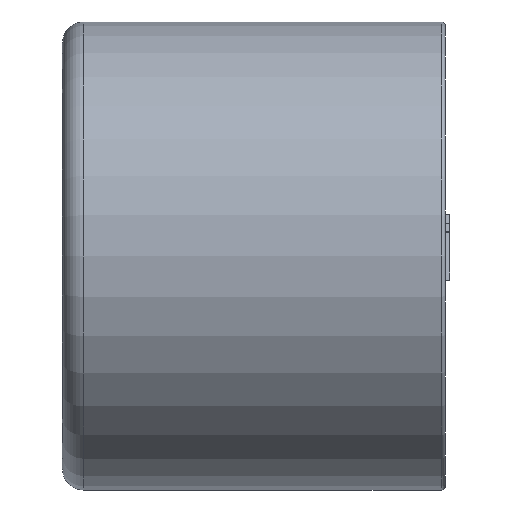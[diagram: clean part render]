
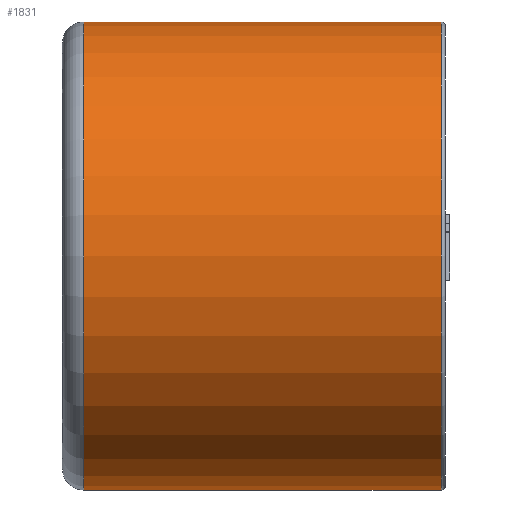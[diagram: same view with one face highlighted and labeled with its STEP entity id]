
A CAD part, left-side view. The second image highlights one B-rep face of the part: STEP entity #1831.
In plain terms, the highlighted cylindrical face has radius 5.5 mm (diameter 11 mm), a partial arc.
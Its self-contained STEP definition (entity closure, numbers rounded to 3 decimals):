
#9 = EDGE_LOOP ( 'NONE', ( #5216, #5626, #29, #6378 ) ) ;
#29 = ORIENTED_EDGE ( 'NONE', *, *, #3848, .T. ) ;
#42 = DIRECTION ( 'NONE',  ( 0., -1., 0. ) ) ;
#62 = DIRECTION ( 'NONE',  ( 0., 0., 1. ) ) ;
#361 = FACE_OUTER_BOUND ( 'NONE', #9, .T. ) ;
#756 = VERTEX_POINT ( 'NONE', #2206 ) ;
#1203 = DIRECTION ( 'NONE',  ( 0., -1., 0. ) ) ;
#1220 = VERTEX_POINT ( 'NONE', #4242 ) ;
#1276 = VECTOR ( 'NONE', #6295, 1000. ) ;
#1319 = EDGE_CURVE ( 'NONE', #756, #2726, #3839, .T. ) ;
#1831 = ADVANCED_FACE ( 'NONE', ( #361 ), #3734, .T. ) ;
#2206 = CARTESIAN_POINT ( 'NONE',  ( 0., 8.5, 5.5 ) ) ;
#2622 = EDGE_CURVE ( 'NONE', #1220, #2726, #4836, .T. ) ;
#2682 = CARTESIAN_POINT ( 'NONE',  ( 0., 0.1, 5.5 ) ) ;
#2726 = VERTEX_POINT ( 'NONE', #2682 ) ;
#3062 = DIRECTION ( 'NONE',  ( 0., 1., 0. ) ) ;
#3298 = CARTESIAN_POINT ( 'NONE',  ( 0., 9., -5.5 ) ) ;
#3540 = CARTESIAN_POINT ( 'NONE',  ( 0., 8.5, -5.5 ) ) ;
#3706 = AXIS2_PLACEMENT_3D ( 'NONE', #6075, #3062, #62 ) ;
#3734 = CYLINDRICAL_SURFACE ( 'NONE', #6214, 5.5 ) ;
#3839 = LINE ( 'NONE', #5181, #6489 ) ;
#3848 = EDGE_CURVE ( 'NONE', #4664, #1220, #5280, .T. ) ;
#4222 = CARTESIAN_POINT ( 'NONE',  ( 0., 8.5, 0. ) ) ;
#4242 = CARTESIAN_POINT ( 'NONE',  ( 0., 0.1, -5.5 ) ) ;
#4664 = VERTEX_POINT ( 'NONE', #3540 ) ;
#4710 = DIRECTION ( 'NONE',  ( 0., 0., 1. ) ) ;
#4823 = AXIS2_PLACEMENT_3D ( 'NONE', #4222, #1203, #4710 ) ;
#4836 = CIRCLE ( 'NONE', #3706, 5.5 ) ;
#5181 = CARTESIAN_POINT ( 'NONE',  ( 0., 9., 5.5 ) ) ;
#5204 = DIRECTION ( 'NONE',  ( 0., -1., 0. ) ) ;
#5216 = ORIENTED_EDGE ( 'NONE', *, *, #1319, .F. ) ;
#5280 = LINE ( 'NONE', #3298, #1276 ) ;
#5515 = EDGE_CURVE ( 'NONE', #756, #4664, #6284, .T. ) ;
#5626 = ORIENTED_EDGE ( 'NONE', *, *, #5515, .T. ) ;
#5647 = CARTESIAN_POINT ( 'NONE',  ( 0., 9., 0. ) ) ;
#5915 = DIRECTION ( 'NONE',  ( 0., 0., -1. ) ) ;
#6075 = CARTESIAN_POINT ( 'NONE',  ( 0., 0.1, 0. ) ) ;
#6214 = AXIS2_PLACEMENT_3D ( 'NONE', #5647, #42, #5915 ) ;
#6284 = CIRCLE ( 'NONE', #4823, 5.5 ) ;
#6295 = DIRECTION ( 'NONE',  ( 0., -1., 0. ) ) ;
#6378 = ORIENTED_EDGE ( 'NONE', *, *, #2622, .T. ) ;
#6489 = VECTOR ( 'NONE', #5204, 1000. ) ;
